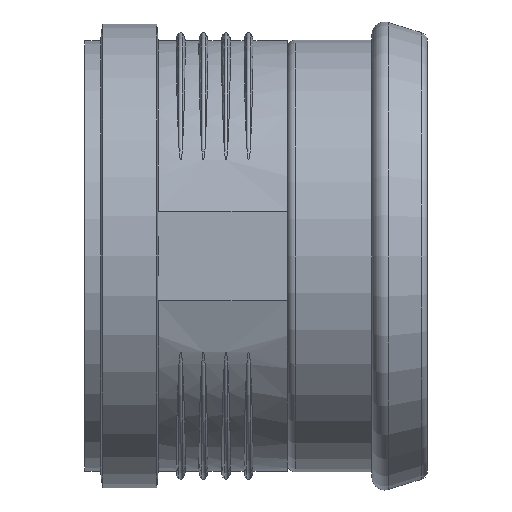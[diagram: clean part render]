
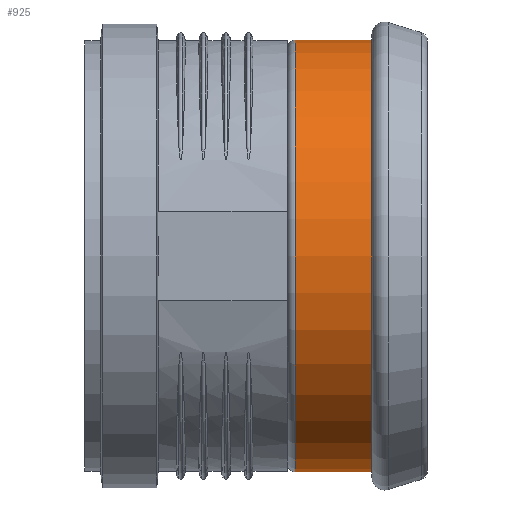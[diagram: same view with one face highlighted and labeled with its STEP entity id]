
A CAD part, front view. The second image highlights one B-rep face of the part: STEP entity #925.
In plain terms, the highlighted cylindrical face has radius 85.9 mm (diameter 171.8 mm), a full revolution.
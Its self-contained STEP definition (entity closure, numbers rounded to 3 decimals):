
#159=FACE_BOUND($,#261,.T.);
#201=FACE_OUTER_BOUND($,#260,.T.);
#260=EDGE_LOOP($,(#618));
#261=EDGE_LOOP($,(#619));
#355=CIRCLE($,#994,85.9);
#356=CIRCLE($,#996,85.9);
#403=VERTEX_POINT($,#1353);
#404=VERTEX_POINT($,#1356);
#497=EDGE_CURVE($,#403,#403,#355,.T.);
#498=EDGE_CURVE($,#404,#404,#356,.T.);
#618=ORIENTED_EDGE($,*,*,#498,.F.);
#619=ORIENTED_EDGE($,*,*,#497,.T.);
#849=CYLINDRICAL_SURFACE($,#995,85.9);
#925=ADVANCED_FACE($,(#201,#159),#849,.T.);
#994=AXIS2_PLACEMENT_3D($,#1354,#1115,#1116);
#995=AXIS2_PLACEMENT_3D($,#1355,#1117,#1118);
#996=AXIS2_PLACEMENT_3D($,#1357,#1119,#1120);
#1115=DIRECTION('center_axis',(1.,0.,0.));
#1116=DIRECTION('ref_axis',(0.,1.,0.));
#1117=DIRECTION('center_axis',(1.,0.,0.));
#1118=DIRECTION('ref_axis',(0.,1.,0.));
#1119=DIRECTION('center_axis',(1.,0.,0.));
#1120=DIRECTION('ref_axis',(0.,1.,0.));
#1353=CARTESIAN_POINT('',(3.5,85.9,0.));
#1354=CARTESIAN_POINT('Origin',(3.5,0.,0.));
#1355=CARTESIAN_POINT('Origin',(18.723,0.,0.));
#1356=CARTESIAN_POINT('',(33.946,85.9,0.));
#1357=CARTESIAN_POINT('Origin',(33.946,0.,0.));
